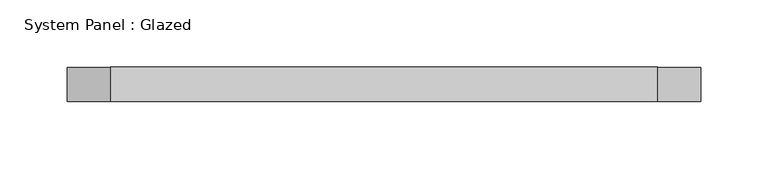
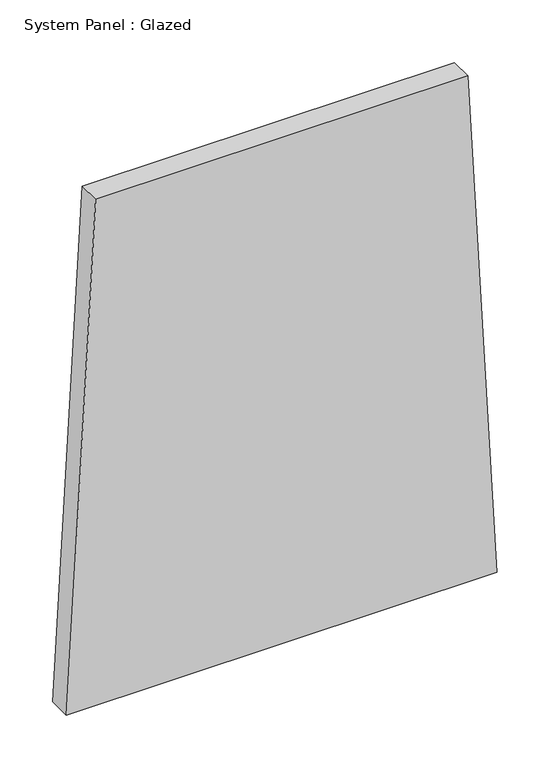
"""IFC4 building model written with IfcOpenShell, lengths in millimetres: plate geometry, System Panel : Glazed."""

from ifc_helpers import new_model, si_unit, frame, origin, place, context, project, spatial, polyline, outline, extrude, source, transform, mapped, element, save


def system_panel_glazed_b17f74a0(model_context):
    return source(origin(), model_context, "Body", "SweptSolid", [
        extrude(outline(polyline([(0.0, -234.9561118), (0.0, 234.9561118), (583.2977141, 203.1846356), (583.2977141, -203.1846356), (0.0, -234.9561118)])), frame((0.0, -44.45, 0.0), z_axis=(0.0, 1.0, 0.0), x_axis=(0.0, 0.0, 1.0)), (0.0, 0.0, 1.0), 25.4),
    ])


if __name__ == "__main__":
    model = new_model("IFC4")
    model_context = context("Model", 3, world=origin())
    ifc_project = project(units=[si_unit("LENGTHUNIT", "METRE", prefix="MILLI")], contexts=[model_context])
    site = spatial("IfcSite", under=ifc_project)
    building = spatial("IfcBuilding", under=site)
    placement = place(None, origin())
    system_panel_glazed_shape = system_panel_glazed_b17f74a0(model_context)
    element("IfcPlate", 1, ObjectType="System Panel : Glazed", at=placement, inside=building, context=model_context, shape_type="MappedRepresentation", body=[
        mapped(system_panel_glazed_shape, transform((0.0, 0.0, 0.0), x_axis=(1.0, 0.0, 0.0), y_axis=(0.0, 1.0, 0.0), z_axis=(0.0, 0.0, 1.0))),
    ])
    save(model, "model.ifc")
